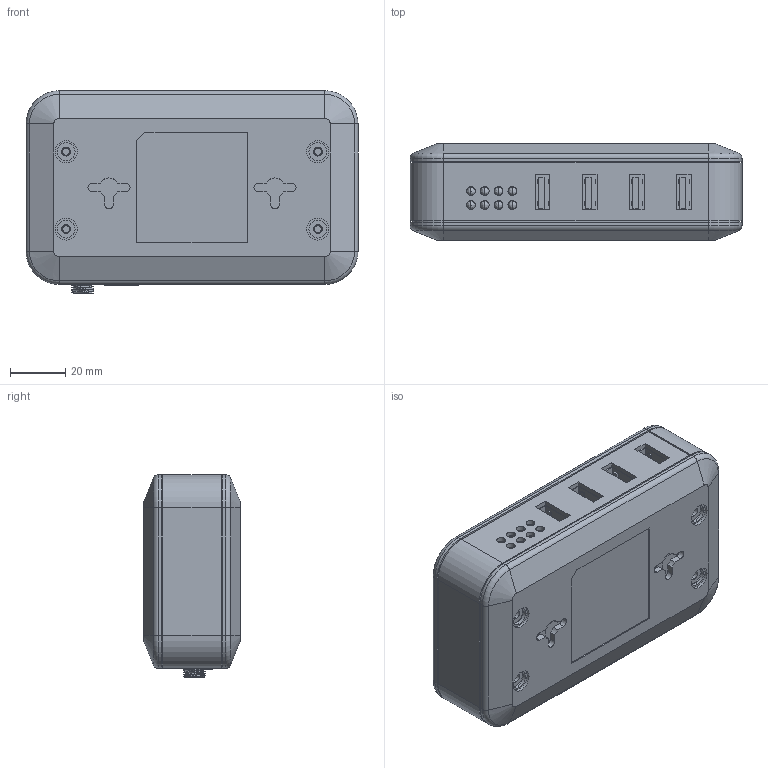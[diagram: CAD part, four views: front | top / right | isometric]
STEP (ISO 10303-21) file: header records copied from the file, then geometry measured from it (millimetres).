
FILE_DESCRIPTION((''),'2;1');
FILE_NAME('UPORT_204_3D','2013-12-28T',('Vincent_Huang'),(''),'PRO/ENGINEER BY PARAMETRIC TECHNOLOGY CORPORATION, 2004320','PRO/ENGINEER BY PARAMETRIC TECHNOLOGY CORPORATION, 2004320','');
FILE_SCHEMA(('CONFIG_CONTROL_DESIGN'));
Length unit declared in the file: millimetre
Products named in the file (1): UPORT_204_3D
Bounding box: 120 x 35 x 73.2 mm (x, y, z)
Volume: 72371.7 mm3; surface area: 84190.9 mm2
Topology: 7 solids, 7 shells, 1426 faces, 3843 edges, 2535 vertices
Faces by surface type: plane 853, cylinder 525, bspline 24, cone 16, torus 8
Entity records: 46855 total; most frequent: CARTESIAN_POINT 9951, ORIENTED_EDGE 7686, DIRECTION 7656, EDGE_CURVE 3843, VECTOR 2662, LINE 2662, VERTEX_POINT 2535, AXIS2_PLACEMENT_3D 2497
